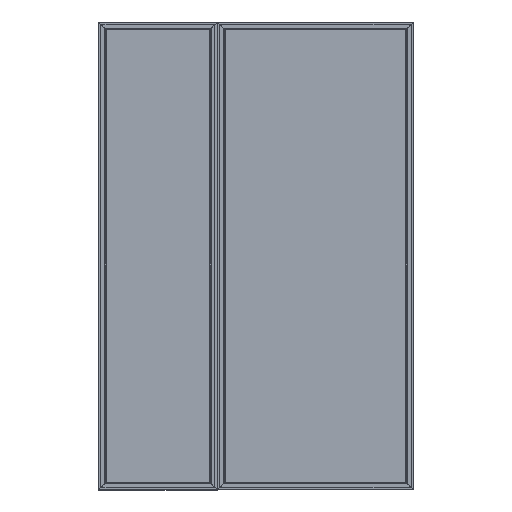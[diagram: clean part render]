
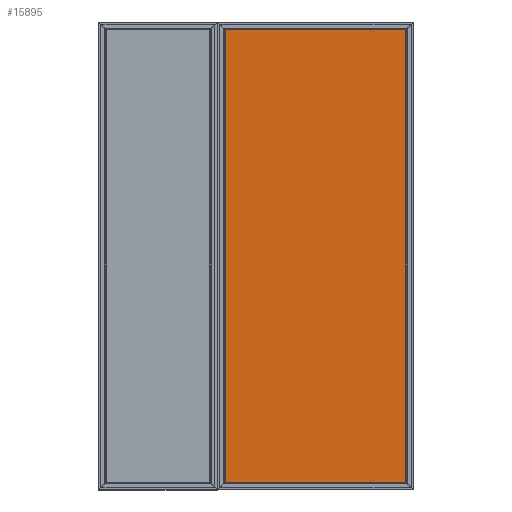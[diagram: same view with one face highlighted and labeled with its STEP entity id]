
A CAD part, top view. The second image highlights one B-rep face of the part: STEP entity #15895.
In plain terms, the highlighted planar face has unit normal (0, 0, 1).
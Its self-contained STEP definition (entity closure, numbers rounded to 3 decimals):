
#2567 = VECTOR ( 'NONE', #18480, 1000. ) ;
#3413 = EDGE_LOOP ( 'NONE', ( #36652, #22362, #53011, #52843 ) ) ;
#5872 = DIRECTION ( 'NONE',  ( 0., 1., 0. ) ) ;
#7527 = DIRECTION ( 'NONE',  ( 0., 0., -1. ) ) ;
#10055 = EDGE_CURVE ( 'NONE', #18515, #51957, #30232, .T. ) ;
#11774 = LINE ( 'NONE', #42670, #51367 ) ;
#12876 = FACE_OUTER_BOUND ( 'NONE', #3413, .T. ) ;
#15753 = CARTESIAN_POINT ( 'NONE',  ( -465.07, -1162.2, -13.25 ) ) ;
#15772 = VERTEX_POINT ( 'NONE', #15753 ) ;
#15895 = ADVANCED_FACE ( 'NONE', ( #12876 ), #47485, .F. ) ;
#16307 = DIRECTION ( 'NONE',  ( -1., 0., 0. ) ) ;
#16916 = VECTOR ( 'NONE', #5872, 1000. ) ;
#17756 = DIRECTION ( 'NONE',  ( -1., 0., 0. ) ) ;
#18480 = DIRECTION ( 'NONE',  ( 0., 1., 0. ) ) ;
#18515 = VERTEX_POINT ( 'NONE', #40407 ) ;
#22362 = ORIENTED_EDGE ( 'NONE', *, *, #41660, .F. ) ;
#26559 = LINE ( 'NONE', #44449, #16916 ) ;
#26827 = CARTESIAN_POINT ( 'NONE',  ( 0., 1162.2, -13.25 ) ) ;
#30232 = LINE ( 'NONE', #26827, #44570 ) ;
#30835 = EDGE_CURVE ( 'NONE', #42423, #18515, #39777, .T. ) ;
#36526 = AXIS2_PLACEMENT_3D ( 'NONE', #46383, #7527, #42113 ) ;
#36652 = ORIENTED_EDGE ( 'NONE', *, *, #36785, .F. ) ;
#36785 = EDGE_CURVE ( 'NONE', #15772, #51957, #26559, .T. ) ;
#39777 = LINE ( 'NONE', #44317, #2567 ) ;
#40407 = CARTESIAN_POINT ( 'NONE',  ( 465.07, 1162.2, -13.25 ) ) ;
#41660 = EDGE_CURVE ( 'NONE', #42423, #15772, #11774, .T. ) ;
#42113 = DIRECTION ( 'NONE',  ( -1., 0., 0. ) ) ;
#42423 = VERTEX_POINT ( 'NONE', #45905 ) ;
#42670 = CARTESIAN_POINT ( 'NONE',  ( 0., -1162.2, -13.25 ) ) ;
#44317 = CARTESIAN_POINT ( 'NONE',  ( 465.07, 0., -13.25 ) ) ;
#44449 = CARTESIAN_POINT ( 'NONE',  ( -465.07, 0., -13.25 ) ) ;
#44570 = VECTOR ( 'NONE', #17756, 1000. ) ;
#45905 = CARTESIAN_POINT ( 'NONE',  ( 465.07, -1162.2, -13.25 ) ) ;
#46383 = CARTESIAN_POINT ( 'NONE',  ( 0., 0., -13.25 ) ) ;
#47485 = PLANE ( 'NONE',  #36526 ) ;
#51367 = VECTOR ( 'NONE', #16307, 1000. ) ;
#51957 = VERTEX_POINT ( 'NONE', #56045 ) ;
#52843 = ORIENTED_EDGE ( 'NONE', *, *, #10055, .T. ) ;
#53011 = ORIENTED_EDGE ( 'NONE', *, *, #30835, .T. ) ;
#56045 = CARTESIAN_POINT ( 'NONE',  ( -465.07, 1162.2, -13.25 ) ) ;
